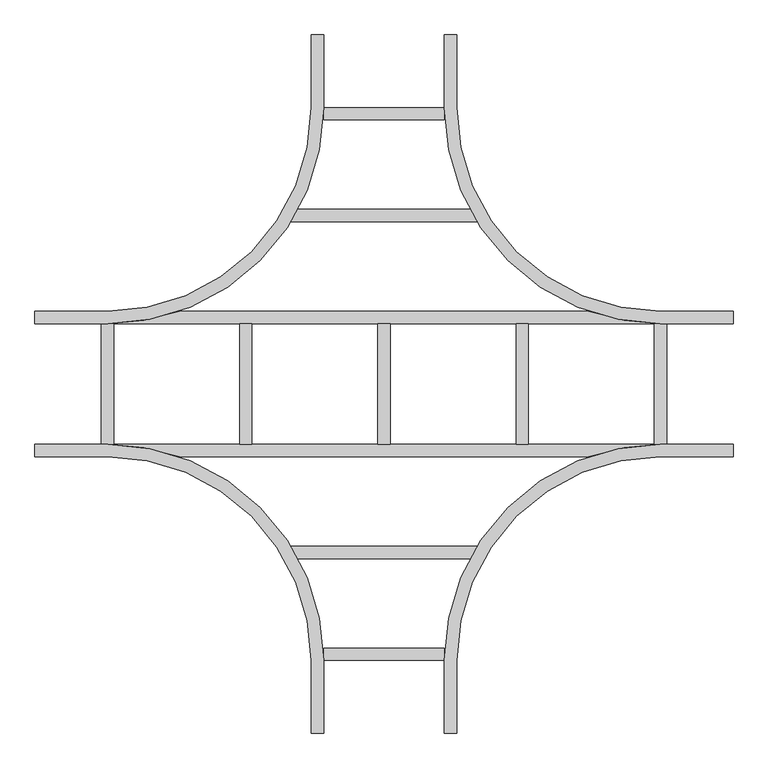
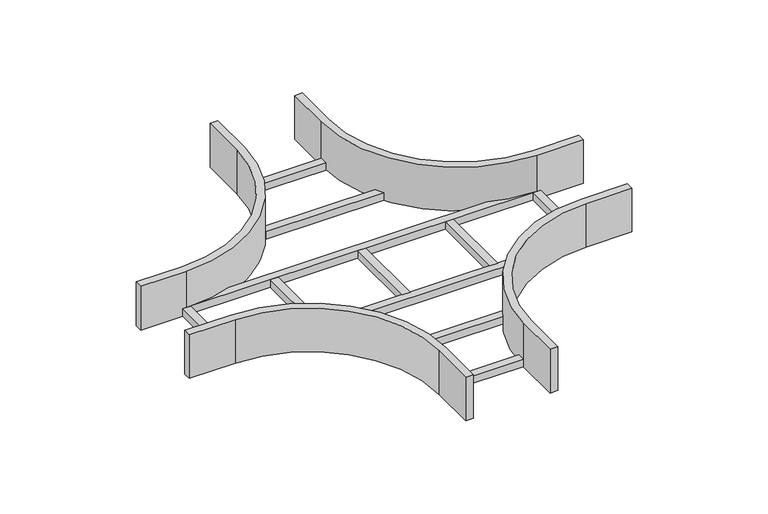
"""IFC4 building model written with IfcOpenShell, lengths in millimetres: cable carrier fitting geometry, BAKS_LD_CROSS_Horizontal cross over_CZDV : CZDVP_H150."""

from ifc_helpers import new_model, si_unit, frame, origin, place, context, project, spatial, polyline, circle_curve, outline, extrude, source, transform, mapped, element, save
from ifc_brep_helpers import plane_surface, cylinder_surface, revolved_surface, advanced_brep


def cable_carrier_fitting_df6db4d9(model_context):
    return source(origin(), model_context, "Body", "SolidModel", [
        extrude(outline(polyline([(191.8889052, -334.6), (191.8889052, -360.0), (-191.8889052, -360.0), (-191.8889052, -334.6), (191.8889052, -334.6)])), frame((0.0, 0.0, -75.0), z_axis=(0.0, 0.0, 1.0), x_axis=(1.0, 0.0, 0.0)), (0.0, 0.0, 1.0), 25.4),
        extrude(outline(polyline([(191.8889052, 360.0), (191.8889052, 334.6), (-191.8889052, 334.6), (-191.8889052, 360.0), (191.8889052, 360.0)])), frame((0.0, 0.0, -75.0), z_axis=(0.0, 0.0, 1.0), x_axis=(1.0, 0.0, 0.0)), (0.0, 0.0, 1.0), 25.4),
        extrude(outline(polyline([(124.6, -544.6), (124.6, -570.0), (-124.6, -570.0), (-124.6, -544.6), (124.6, -544.6)])), frame((0.0, 0.0, -75.0), z_axis=(0.0, 0.0, 1.0), x_axis=(1.0, 0.0, 0.0)), (0.0, 0.0, 1.0), 25.4),
        extrude(outline(polyline([(124.6, 570.0), (124.6, 544.6), (-124.6, 544.6), (-124.6, 570.0), (124.6, 570.0)])), frame((0.0, 0.0, -75.0), z_axis=(0.0, 0.0, 1.0), x_axis=(1.0, 0.0, 0.0)), (0.0, 0.0, 1.0), 25.4),
        extrude(outline(polyline([(582.7, 124.6), (582.7, -124.6), (557.3, -124.6), (557.3, 124.6), (582.7, 124.6)])), frame((0.0, 0.0, -75.0), z_axis=(0.0, 0.0, 1.0), x_axis=(1.0, 0.0, 0.0)), (0.0, 0.0, 1.0), 25.4),
        extrude(outline(polyline([(297.7, 124.6), (297.7, -124.6), (272.3, -124.6), (272.3, 124.6), (297.7, 124.6)])), frame((0.0, 0.0, -75.0), z_axis=(0.0, 0.0, 1.0), x_axis=(1.0, 0.0, 0.0)), (0.0, 0.0, 1.0), 25.4),
        extrude(outline(polyline([(12.7, 124.6), (12.7, -124.6), (-12.7, -124.6), (-12.7, 124.6), (12.7, 124.6)])), frame((0.0, 0.0, -75.0), z_axis=(0.0, 0.0, 1.0), x_axis=(1.0, 0.0, 0.0)), (0.0, 0.0, 1.0), 25.4),
        extrude(outline(polyline([(-272.3, 124.6), (-272.3, -124.6), (-297.7, -124.6), (-297.7, 124.6), (-272.3, 124.6)])), frame((0.0, 0.0, -75.0), z_axis=(0.0, 0.0, 1.0), x_axis=(1.0, 0.0, 0.0)), (0.0, 0.0, 1.0), 25.4),
        extrude(outline(polyline([(-557.3, 124.6), (-557.3, -124.6), (-582.7, -124.6), (-582.7, 124.6), (-557.3, 124.6)])), frame((0.0, 0.0, -75.0), z_axis=(0.0, 0.0, 1.0), x_axis=(1.0, 0.0, 0.0)), (0.0, 0.0, 1.0), 25.4),
        advanced_brep(
        [(-150.0, -570.0, 75.0), (-150.0, -720.0, 75.0), (-124.6, -720.0, 75.0), (-124.6, -570.0, 75.0), (-570.0, -124.6, 75.0), (-720.0, -124.6, 75.0), (-720.0, -150.0, 75.0), (-570.0, -150.0, 75.0), (150.0, -570.0, 75.0), (570.0, -150.0, 75.0), (720.0, -150.0, 75.0), (720.0, -124.6, 75.0), (570.0, -124.6, 75.0), (124.6, -570.0, 75.0), (124.6, -720.0, 75.0), (150.0, -720.0, 75.0), (-150.0, -570.0, -75.0), (-570.0, -150.0, -75.0), (-720.0, -150.0, -75.0), (-720.0, -124.6, -75.0), (720.0, -124.6, -75.0), (720.0, -150.0, -75.0), (570.0, -150.0, -75.0), (150.0, -570.0, -75.0), (150.0, -720.0, -75.0), (124.6, -720.0, -75.0), (124.6, -570.0, -75.0), (421.7395535, -150.0, -75.0), (-421.7395535, -150.0, -75.0), (-124.6, -570.0, -75.0), (-124.6, -720.0, -75.0), (-150.0, -720.0, -75.0), (-421.7395535, -150.0, -49.6), (-570.0, -124.6, -49.6), (570.0, -124.6, -49.6), (-570.0, -150.0, -49.6), (570.0, -150.0, -49.6), (421.7395535, -150.0, -49.6)],
        [
            (0, 1),
            (1, 2),
            (2, 3),
            (3, 4, circle_curve(frame((-570.0, -570.0, 75.0), z_axis=(0.0, 0.0, 1.0), x_axis=(1.0, 0.0, 0.0)), 445.4)),
            (4, 5),
            (5, 6),
            (6, 7),
            (7, 0, circle_curve(frame((-570.0, -570.0, 75.0), z_axis=(0.0, 0.0, -1.0), x_axis=(1.0, 0.0, 0.0)), 420.0)),
            (8, 9, circle_curve(frame((570.0, -570.0, 75.0), z_axis=(0.0, 0.0, -1.0), x_axis=(1.0, 0.0, 0.0)), 420.0)),
            (9, 10),
            (10, 11),
            (11, 12),
            (12, 13, circle_curve(frame((570.0, -570.0, 75.0), z_axis=(0.0, 0.0, 1.0), x_axis=(1.0, 0.0, 0.0)), 445.4)),
            (13, 14),
            (14, 15),
            (15, 8),
            (16, 17, circle_curve(frame((-570.0, -570.0, -75.0), z_axis=(0.0, 0.0, 1.0), x_axis=(1.0, 0.0, 0.0)), 420.0)),
            (17, 18),
            (18, 19),
            (19, 20),
            (20, 21),
            (21, 22),
            (22, 23, circle_curve(frame((570.0, -570.0, -75.0), z_axis=(0.0, 0.0, 1.0), x_axis=(1.0, 0.0, 0.0)), 420.0)),
            (23, 24),
            (24, 25),
            (25, 26),
            (26, 27, circle_curve(frame((570.0, -570.0, -75.0), z_axis=(0.0, 0.0, -1.0), x_axis=(1.0, 0.0, 0.0)), 445.4)),
            (27, 28),
            (28, 29, circle_curve(frame((-570.0, -570.0, -75.0), z_axis=(0.0, 0.0, -1.0), x_axis=(1.0, 0.0, 0.0)), 445.4)),
            (29, 30),
            (30, 31),
            (31, 16),
            (0, 16),
            (31, 1),
            (30, 2),
            (29, 3),
            (28, 32),
            (32, 33, circle_curve(frame((-570.0, -570.0, -49.6), z_axis=(0.0, 0.0, 1.0), x_axis=(1.0, 0.0, 0.0)), 445.4)),
            (33, 4),
            (33, 34),
            (34, 12),
            (11, 20),
            (19, 5),
            (18, 6),
            (17, 35),
            (35, 7),
            (8, 23),
            (22, 36),
            (36, 9),
            (21, 10),
            (34, 37, circle_curve(frame((570.0, -570.0, -49.6), z_axis=(0.0, 0.0, 1.0), x_axis=(1.0, 0.0, 0.0)), 445.4)),
            (37, 27),
            (26, 13),
            (25, 14),
            (24, 15),
            (32, 37),
        ],
        [
            plane_surface(frame((-150.0, -570.0, 75.0), z_axis=(0.0, 0.0, 1.0), x_axis=(0.0, -1.0, 0.0))),
            plane_surface(frame((-150.0, -570.0, -75.0), z_axis=(0.0, 0.0, -1.0), x_axis=(0.0, 1.0, 0.0))),
            plane_surface(frame((-150.0, -570.0, 75.0), z_axis=(-1.0, 0.0, 0.0), x_axis=(0.0, 0.0, -1.0))),
            plane_surface(frame((-150.0, -720.0, 75.0), z_axis=(0.0, -1.0, 0.0), x_axis=(0.0, 0.0, -1.0))),
            plane_surface(frame((-124.6, -720.0, 75.0), z_axis=(1.0, 0.0, 0.0), x_axis=(0.0, 0.0, -1.0))),
            cylinder_surface(frame((-570.0, -570.0, -75.0), z_axis=(0.0, 0.0, 1.0), x_axis=(1.0, 0.0, 0.0)), 445.4),
            plane_surface(frame((-570.0, -124.6, 75.0), z_axis=(0.0, 1.0, 0.0), x_axis=(0.0, 0.0, -1.0))),
            plane_surface(frame((-720.0, -124.6, 75.0), z_axis=(-1.0, 0.0, 0.0), x_axis=(0.0, 0.0, -1.0))),
            plane_surface(frame((-720.0, -150.0, 75.0), z_axis=(0.0, -1.0, 0.0), x_axis=(0.0, 0.0, -1.0))),
            revolved_surface(polyline([(-150.0, -570.0, -75.0), (-150.0, -570.0, 75.0)]), (-570.0, -570.0, -75.0), (0.0, 0.0, -1.0)),
            revolved_surface(polyline([(990.0, -570.0, -75.0), (990.0, -570.0, 75.0)]), (570.0, -570.0, 0.0), (0.0, 0.0, -1.0)),
            plane_surface(frame((570.0, -150.0, 75.0), z_axis=(0.0, -1.0, 0.0), x_axis=(0.0, 0.0, -1.0))),
            plane_surface(frame((720.0, -150.0, 75.0), z_axis=(1.0, 0.0, 0.0), x_axis=(0.0, 0.0, -1.0))),
            cylinder_surface(frame((570.0, -570.0, 0.0), z_axis=(0.0, 0.0, 1.0), x_axis=(1.0, 0.0, 0.0)), 445.4),
            plane_surface(frame((124.6, -570.0, 75.0), z_axis=(-1.0, 0.0, 0.0), x_axis=(0.0, 0.0, -1.0))),
            plane_surface(frame((124.6, -720.0, 75.0), z_axis=(0.0, -1.0, 0.0), x_axis=(0.0, 0.0, -1.0))),
            plane_surface(frame((150.0, -720.0, 75.0), z_axis=(1.0, 0.0, 0.0), x_axis=(0.0, 0.0, -1.0))),
            plane_surface(frame((-570.0, -124.6, -49.6), z_axis=(0.0, 0.0, 1.0), x_axis=(-1.0, 0.0, 0.0))),
            plane_surface(frame((-570.0, -150.0, -49.6), z_axis=(0.0, -1.0, 0.0), x_axis=(0.0, 0.0, -1.0))),
        ],
        [
            (0, [[1, 2, 3, 4, 5, 6, 7, 8]]),
            (0, [[9, 10, 11, 12, 13, 14, 15, 16]]),
            (1, [[17, 18, 19, 20, 21, 22, 23, 24, 25, 26, 27, 28, 29, 30, 31, 32]]),
            (2, [[-1, 33, -32, 34]]),
            (3, [[-2, -34, -31, 35]]),
            (4, [[-3, -35, -30, 36]]),
            (5, [[-4, -36, -29, 37, 38, 39]]),
            (6, [[-5, -39, 40, 41, -12, 42, -20, 43]]),
            (7, [[-6, -43, -19, 44]]),
            (8, [[-7, -44, -18, 45, 46]]),
            (9, [[-8, -46, -45, -17, -33]]),
            (10, [[-9, 47, -23, 48, 49]]),
            (11, [[-10, -49, -48, -22, 50]]),
            (12, [[-11, -50, -21, -42]]),
            (13, [[-13, -41, 51, 52, -27, 53]]),
            (14, [[-14, -53, -26, 54]]),
            (15, [[-15, -54, -25, 55]]),
            (16, [[-16, -55, -24, -47]]),
            (17, [[-40, -38, 56, -51]]),
            (18, [[-28, -52, -56, -37]]),
        ],
    ),
        advanced_brep(
        [(-124.6, 570.0, 75.0), (-124.6, 720.0, 75.0), (-150.0, 720.0, 75.0), (-150.0, 570.0, 75.0), (-570.0, 150.0, 75.0), (-720.0, 150.0, 75.0), (-720.0, 124.6, 75.0), (-570.0, 124.6, 75.0), (124.6, 570.0, 75.0), (570.0, 124.6, 75.0), (720.0, 124.6, 75.0), (720.0, 150.0, 75.0), (570.0, 150.0, 75.0), (150.0, 570.0, 75.0), (150.0, 720.0, 75.0), (124.6, 720.0, 75.0), (-720.0, 124.6, -75.0), (-720.0, 150.0, -75.0), (-570.0, 150.0, -75.0), (-150.0, 570.0, -75.0), (-150.0, 720.0, -75.0), (-124.6, 720.0, -75.0), (-124.6, 570.0, -75.0), (-421.7395535, 150.0, -75.0), (421.7395535, 150.0, -75.0), (124.6, 570.0, -75.0), (124.6, 720.0, -75.0), (150.0, 720.0, -75.0), (150.0, 570.0, -75.0), (570.0, 150.0, -75.0), (720.0, 150.0, -75.0), (720.0, 124.6, -75.0), (-570.0, 124.6, -49.6), (570.0, 124.6, -49.6), (421.7395535, 150.0, -49.6), (-421.7395535, 150.0, -49.6), (-570.0, 150.0, -49.6), (570.0, 150.0, -49.6)],
        [
            (0, 1),
            (1, 2),
            (2, 3),
            (3, 4, circle_curve(frame((-570.0, 570.0, 75.0), z_axis=(0.0, 0.0, -1.0), x_axis=(1.0, 0.0, 0.0)), 420.0)),
            (4, 5),
            (5, 6),
            (6, 7),
            (7, 0, circle_curve(frame((-570.0, 570.0, 75.0), z_axis=(0.0, 0.0, 1.0), x_axis=(1.0, 0.0, 0.0)), 445.4)),
            (8, 9, circle_curve(frame((570.0, 570.0, 75.0), z_axis=(0.0, 0.0, 1.0), x_axis=(1.0, 0.0, 0.0)), 445.4)),
            (9, 10),
            (10, 11),
            (11, 12),
            (12, 13, circle_curve(frame((570.0, 570.0, 75.0), z_axis=(0.0, 0.0, -1.0), x_axis=(1.0, 0.0, 0.0)), 420.0)),
            (13, 14),
            (14, 15),
            (15, 8),
            (16, 17),
            (17, 18),
            (18, 19, circle_curve(frame((-570.0, 570.0, -75.0), z_axis=(0.0, 0.0, 1.0), x_axis=(1.0, 0.0, 0.0)), 420.0)),
            (19, 20),
            (20, 21),
            (21, 22),
            (22, 23, circle_curve(frame((-570.0, 570.0, -75.0), z_axis=(0.0, 0.0, -1.0), x_axis=(1.0, 0.0, 0.0)), 445.4)),
            (23, 24),
            (24, 25, circle_curve(frame((570.0, 570.0, -75.0), z_axis=(0.0, 0.0, -1.0), x_axis=(1.0, 0.0, 0.0)), 445.4)),
            (25, 26),
            (26, 27),
            (27, 28),
            (28, 29, circle_curve(frame((570.0, 570.0, -75.0), z_axis=(0.0, 0.0, 1.0), x_axis=(1.0, 0.0, 0.0)), 420.0)),
            (29, 30),
            (30, 31),
            (31, 16),
            (32, 33),
            (33, 34, circle_curve(frame((570.0, 570.0, -49.6), z_axis=(0.0, 0.0, -1.0), x_axis=(1.0, 0.0, 0.0)), 445.4)),
            (34, 35),
            (35, 32, circle_curve(frame((-570.0, 570.0, -49.6), z_axis=(0.0, 0.0, -1.0), x_axis=(1.0, 0.0, 0.0)), 445.4)),
            (0, 22),
            (21, 1),
            (20, 2),
            (19, 3),
            (18, 36),
            (36, 4),
            (17, 5),
            (16, 6),
            (31, 10),
            (9, 33),
            (32, 7),
            (35, 23),
            (8, 25),
            (24, 34),
            (30, 11),
            (29, 37),
            (37, 12),
            (28, 13),
            (27, 14),
            (26, 15),
        ],
        [
            plane_surface(frame((-150.0, -570.0, 75.0), z_axis=(0.0, 0.0, 1.0), x_axis=(0.0, -1.0, 0.0))),
            plane_surface(frame((-150.0, -570.0, -75.0), z_axis=(0.0, 0.0, -1.0), x_axis=(0.0, 1.0, 0.0))),
            plane_surface(frame((-570.0, -124.6, -49.6), z_axis=(0.0, 0.0, 1.0), x_axis=(-1.0, 0.0, 0.0))),
            plane_surface(frame((-124.6, 570.0, 75.0), z_axis=(1.0, 0.0, 0.0), x_axis=(0.0, 0.0, -1.0))),
            plane_surface(frame((-124.6, 720.0, 75.0), z_axis=(0.0, 1.0, 0.0), x_axis=(0.0, 0.0, -1.0))),
            plane_surface(frame((-150.0, 720.0, 75.0), z_axis=(-1.0, 0.0, 0.0), x_axis=(0.0, 0.0, -1.0))),
            revolved_surface(polyline([(-150.0, 570.0, -75.0), (-150.0, 570.0, 75.0)]), (-570.0, 570.0, 0.0), (0.0, 0.0, -1.0)),
            plane_surface(frame((-570.0, 150.0, 75.0), z_axis=(0.0, 1.0, 0.0), x_axis=(0.0, 0.0, -1.0))),
            plane_surface(frame((-720.0, 150.0, 75.0), z_axis=(-1.0, 0.0, 0.0), x_axis=(0.0, 0.0, -1.0))),
            plane_surface(frame((-720.0, 124.6, 75.0), z_axis=(0.0, -1.0, 0.0), x_axis=(0.0, 0.0, -1.0))),
            cylinder_surface(frame((-570.0, 570.0, 0.0), z_axis=(0.0, 0.0, 1.0), x_axis=(1.0, 0.0, 0.0)), 445.4),
            cylinder_surface(frame((570.0, 570.0, 0.0), z_axis=(0.0, 0.0, 1.0), x_axis=(1.0, 0.0, 0.0)), 445.4),
            plane_surface(frame((720.0, 124.6, 75.0), z_axis=(1.0, 0.0, 0.0), x_axis=(0.0, 0.0, -1.0))),
            plane_surface(frame((720.0, 150.0, 75.0), z_axis=(0.0, 1.0, 0.0), x_axis=(0.0, 0.0, -1.0))),
            revolved_surface(polyline([(990.0, 570.0, -75.0), (990.0, 570.0, 75.0)]), (570.0, 570.0, 0.0), (0.0, 0.0, -1.0)),
            plane_surface(frame((150.0, 570.0, 75.0), z_axis=(1.0, 0.0, 0.0), x_axis=(0.0, 0.0, -1.0))),
            plane_surface(frame((150.0, 720.0, 75.0), z_axis=(0.0, 1.0, 0.0), x_axis=(0.0, 0.0, -1.0))),
            plane_surface(frame((124.6, 720.0, 75.0), z_axis=(-1.0, 0.0, 0.0), x_axis=(0.0, 0.0, -1.0))),
            plane_surface(frame((570.0, 150.0, -49.6), z_axis=(0.0, 1.0, 0.0), x_axis=(0.0, 0.0, -1.0))),
        ],
        [
            (0, [[1, 2, 3, 4, 5, 6, 7, 8]]),
            (0, [[9, 10, 11, 12, 13, 14, 15, 16]]),
            (1, [[17, 18, 19, 20, 21, 22, 23, 24, 25, 26, 27, 28, 29, 30, 31, 32]]),
            (2, [[33, 34, 35, 36]]),
            (3, [[-1, 37, -22, 38]]),
            (4, [[-2, -38, -21, 39]]),
            (5, [[-3, -39, -20, 40]]),
            (6, [[-4, -40, -19, 41, 42]]),
            (7, [[-5, -42, -41, -18, 43]]),
            (8, [[-6, -43, -17, 44]]),
            (9, [[-7, -44, -32, 45, -10, 46, -33, 47]]),
            (10, [[-8, -47, -36, 48, -23, -37]]),
            (11, [[-9, 49, -25, 50, -34, -46]]),
            (12, [[-11, -45, -31, 51]]),
            (13, [[-12, -51, -30, 52, 53]]),
            (14, [[-13, -53, -52, -29, 54]]),
            (15, [[-14, -54, -28, 55]]),
            (16, [[-15, -55, -27, 56]]),
            (17, [[-16, -56, -26, -49]]),
            (18, [[-24, -48, -35, -50]]),
        ],
    ),
    ])


if __name__ == "__main__":
    model = new_model("IFC4")
    model_context = context("Model", 3, world=origin())
    ifc_project = project(units=[si_unit("LENGTHUNIT", "METRE", prefix="MILLI")], contexts=[model_context])
    site = spatial("IfcSite", under=ifc_project)
    building = spatial("IfcBuilding", under=site)
    placement = place(None, origin())
    cable_carrier_fitting_shape = cable_carrier_fitting_df6db4d9(model_context)
    element("IfcCableCarrierFitting", 1, ObjectType="BAKS_LD_CROSS_Horizontal cross over_CZDV : CZDVP_H150", at=placement, inside=building, context=model_context, shape_type="MappedRepresentation", body=[
        mapped(cable_carrier_fitting_shape, transform((0.0, 0.0, 0.0), x_axis=(1.0, 0.0, 0.0), y_axis=(0.0, 1.0, 0.0), z_axis=(0.0, 0.0, 1.0))),
    ])
    save(model, "model.ifc")
